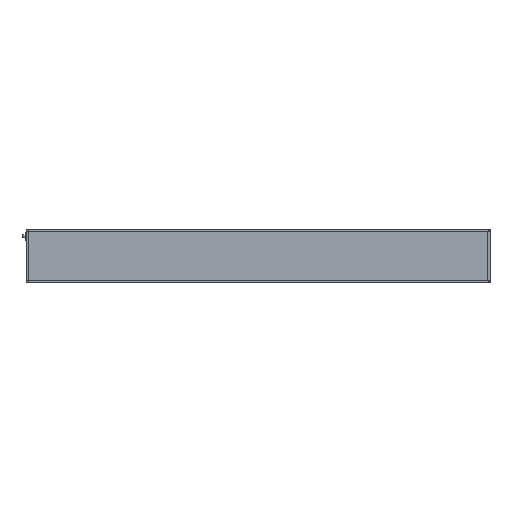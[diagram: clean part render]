
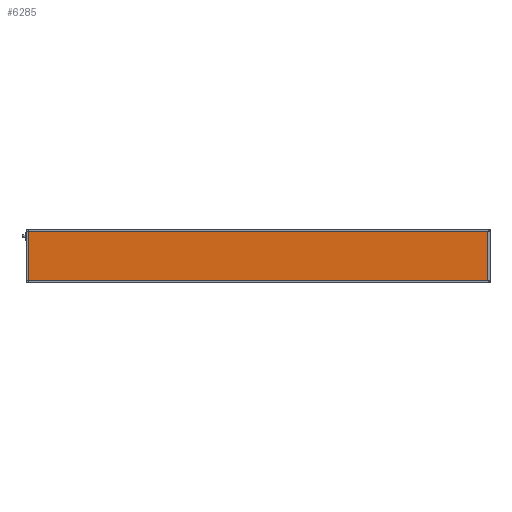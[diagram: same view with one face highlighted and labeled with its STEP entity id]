
A CAD part, top view. The second image highlights one B-rep face of the part: STEP entity #6285.
In plain terms, the highlighted planar face has unit normal (0, 0, 1).
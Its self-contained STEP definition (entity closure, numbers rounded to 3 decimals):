
#199 = LINE ( 'NONE', #8306, #2070 ) ;
#300 = FACE_OUTER_BOUND ( 'NONE', #1994, .T. ) ;
#628 = VERTEX_POINT ( 'NONE', #13901 ) ;
#636 = DIRECTION ( 'NONE',  ( 1., 0., 0. ) ) ;
#897 = CARTESIAN_POINT ( 'NONE',  ( 0., 4., 41.85 ) ) ;
#1140 = LINE ( 'NONE', #15709, #16297 ) ;
#1670 = CARTESIAN_POINT ( 'NONE',  ( 4., 196., 41.85 ) ) ;
#1713 = EDGE_CURVE ( 'NONE', #15780, #4122, #12579, .T. ) ;
#1960 = DIRECTION ( 'NONE',  ( 0., -1., 0. ) ) ;
#1994 = EDGE_LOOP ( 'NONE', ( #13886, #3608, #3157, #9427 ) ) ;
#2070 = VECTOR ( 'NONE', #5506, 1000. ) ;
#2833 = DIRECTION ( 'NONE',  ( -1., 0., 0. ) ) ;
#3157 = ORIENTED_EDGE ( 'NONE', *, *, #7104, .T. ) ;
#3450 = LINE ( 'NONE', #13911, #14526 ) ;
#3608 = ORIENTED_EDGE ( 'NONE', *, *, #13313, .T. ) ;
#4122 = VERTEX_POINT ( 'NONE', #8604 ) ;
#4390 = PLANE ( 'NONE',  #13425 ) ;
#5506 = DIRECTION ( 'NONE',  ( -1., 0., 0. ) ) ;
#6285 = ADVANCED_FACE ( 'NONE', ( #300 ), #4390, .F. ) ;
#7104 = EDGE_CURVE ( 'NONE', #8443, #15780, #3450, .T. ) ;
#8306 = CARTESIAN_POINT ( 'NONE',  ( 0., 196., 41.85 ) ) ;
#8443 = VERTEX_POINT ( 'NONE', #1670 ) ;
#8604 = CARTESIAN_POINT ( 'NONE',  ( 1796., 4., 41.85 ) ) ;
#9427 = ORIENTED_EDGE ( 'NONE', *, *, #1713, .T. ) ;
#9715 = DIRECTION ( 'NONE',  ( 0., 0., -1. ) ) ;
#10357 = VECTOR ( 'NONE', #636, 1000. ) ;
#10487 = DIRECTION ( 'NONE',  ( 0., 1., 0. ) ) ;
#12579 = LINE ( 'NONE', #897, #10357 ) ;
#13313 = EDGE_CURVE ( 'NONE', #628, #8443, #199, .T. ) ;
#13425 = AXIS2_PLACEMENT_3D ( 'NONE', #13726, #9715, #2833 ) ;
#13726 = CARTESIAN_POINT ( 'NONE',  ( 0., 0., 41.85 ) ) ;
#13886 = ORIENTED_EDGE ( 'NONE', *, *, #14441, .T. ) ;
#13901 = CARTESIAN_POINT ( 'NONE',  ( 1796., 196., 41.85 ) ) ;
#13911 = CARTESIAN_POINT ( 'NONE',  ( 4., 0., 41.85 ) ) ;
#14441 = EDGE_CURVE ( 'NONE', #4122, #628, #1140, .T. ) ;
#14526 = VECTOR ( 'NONE', #1960, 1000. ) ;
#15709 = CARTESIAN_POINT ( 'NONE',  ( 1796., 0., 41.85 ) ) ;
#15780 = VERTEX_POINT ( 'NONE', #16425 ) ;
#16297 = VECTOR ( 'NONE', #10487, 1000. ) ;
#16425 = CARTESIAN_POINT ( 'NONE',  ( 4., 4., 41.85 ) ) ;
